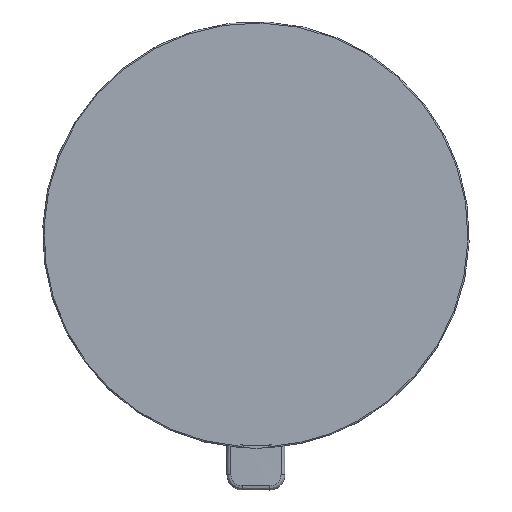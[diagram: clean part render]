
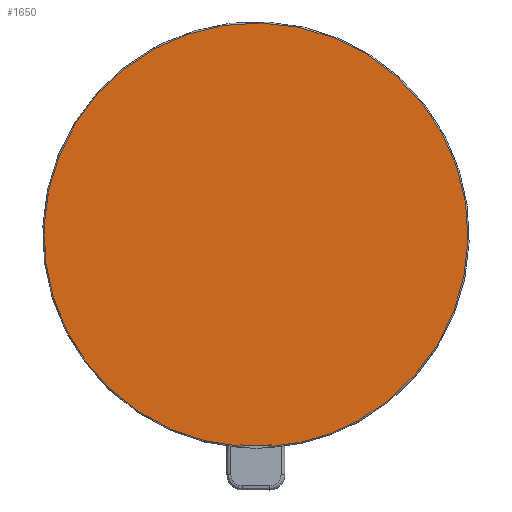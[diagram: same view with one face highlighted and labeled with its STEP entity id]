
A CAD part, left-side view. The second image highlights one B-rep face of the part: STEP entity #1650.
In plain terms, the highlighted planar face has unit normal (-1, 0, 0).
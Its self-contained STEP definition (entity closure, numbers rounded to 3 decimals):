
#4=CARTESIAN_POINT('',(59.,-6.,-83.66));
#6=DIRECTION('',(0.,0.,1.));
#7=VECTOR('',#6,0.627);
#8=CARTESIAN_POINT('',(59.,-6.,-84.287));
#9=LINE('',#8,#7);
#20=CARTESIAN_POINT('',(59.,-6.,-84.287));
#100=CARTESIAN_POINT('',(59.,6.,-84.287));
#114=CARTESIAN_POINT('',(59.,0.,0.));
#115=DIRECTION('',(-1.,0.,0.));
#116=DIRECTION('',(0.,0.072,-0.997));
#117=AXIS2_PLACEMENT_3D('',#114,#115,#116);
#119=DIRECTION('',(0.,0.,1.));
#120=VECTOR('',#119,0.627);
#121=CARTESIAN_POINT('',(59.,6.,-84.287));
#122=LINE('',#121,#120);
#123=CARTESIAN_POINT('',(59.,0.,0.));
#124=DIRECTION('',(-1.,0.,0.));
#125=DIRECTION('',(0.,0.479,0.878));
#126=AXIS2_PLACEMENT_3D('',#123,#124,#125);
#128=CARTESIAN_POINT('',(59.,0.,0.));
#129=DIRECTION('',(1.,0.,0.));
#130=DIRECTION('',(0.,0.479,0.878));
#131=AXIS2_PLACEMENT_3D('',#128,#129,#130);
#133=CARTESIAN_POINT('',(59.,0.,0.));
#134=DIRECTION('',(-1.,0.,0.));
#135=DIRECTION('',(0.,-0.071,-0.997));
#136=AXIS2_PLACEMENT_3D('',#133,#134,#135);
#138=CARTESIAN_POINT('',(59.,6.,-83.66));
#1386=VERTEX_POINT('',#20);
#1392=VERTEX_POINT('',#100);
#1394=CARTESIAN_POINT('',(59.,-40.512,-74.156));
#1395=VERTEX_POINT('',#1394);
#1396=CARTESIAN_POINT('',(59.,40.512,74.156));
#1397=VERTEX_POINT('',#1396);
#1417=VERTEX_POINT('',#4);
#1422=VERTEX_POINT('',#138);
#1634=CARTESIAN_POINT('',(59.,0.,83.));
#1635=DIRECTION('',(-1.,0.,0.));
#1636=DIRECTION('',(0.,1.,0.));
#1637=AXIS2_PLACEMENT_3D('',#1634,#1635,#1636);
#1638=PLANE('',#1637);
#1639=ORIENTED_EDGE('',*,*,#1543,.T.);
#1640=ORIENTED_EDGE('',*,*,#1570,.F.);
#1642=ORIENTED_EDGE('',*,*,#1641,.F.);
#1643=ORIENTED_EDGE('',*,*,#1620,.F.);
#1645=ORIENTED_EDGE('',*,*,#1644,.T.);
#1647=ORIENTED_EDGE('',*,*,#1646,.F.);
#1648=EDGE_LOOP('',(#1639,#1640,#1642,#1643,#1645,#1647));
#1649=FACE_OUTER_BOUND('',#1648,.F.);
#1650=ADVANCED_FACE('',(#1649),#1638,.T.);
#118=CIRCLE('',#117,83.875);
#127=CIRCLE('',#126,84.5);
#132=CIRCLE('',#131,84.5);
#137=CIRCLE('',#136,84.5);
#1543=EDGE_CURVE('',#1386,#1417,#9,.T.);
#1570=EDGE_CURVE('',#1422,#1417,#118,.T.);
#1620=EDGE_CURVE('',#1397,#1392,#127,.T.);
#1641=EDGE_CURVE('',#1392,#1422,#122,.T.);
#1644=EDGE_CURVE('',#1397,#1395,#132,.T.);
#1646=EDGE_CURVE('',#1386,#1395,#137,.T.);
